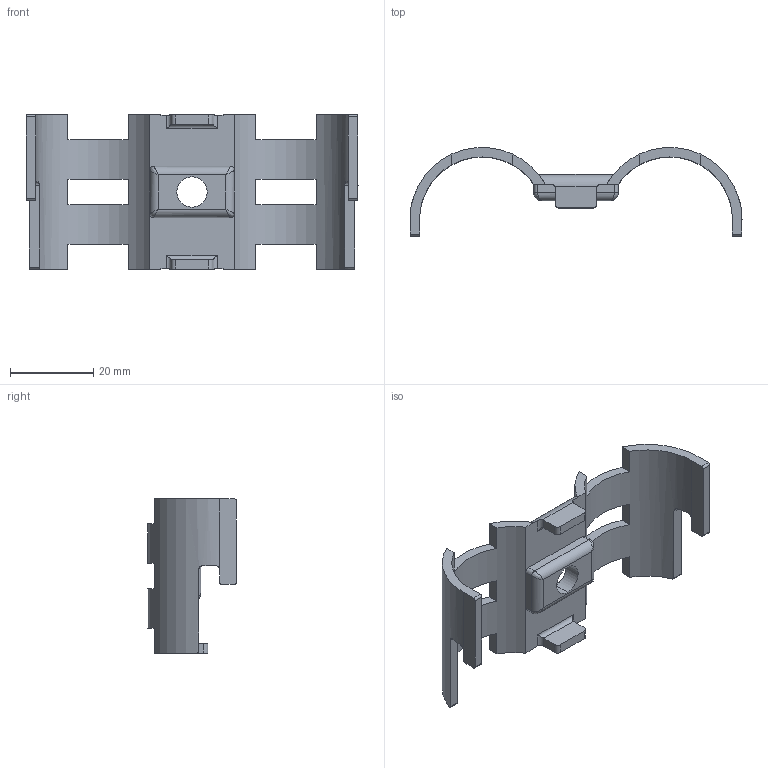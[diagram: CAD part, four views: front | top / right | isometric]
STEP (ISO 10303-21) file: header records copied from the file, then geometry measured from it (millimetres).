
FILE_DESCRIPTION (( 'STEP AP203' ), '1' );
FILE_NAME ('015.100.018.STEP', '2016-10-24T07:38:57', ( '' ), ( '' ), 'SwSTEP 2.0', 'SolidWorks 2016', '' );
FILE_SCHEMA (( 'CONFIG_CONTROL_DESIGN' ));
Length unit declared in the file: millimetre
Products named in the file (1): 015.100.018
Bounding box: 79.6 x 21.24 x 37 mm (x, y, z)
Volume: 7877.3 mm3; surface area: 8040 mm2
Topology: 2 solids, 2 shells, 110 faces, 298 edges, 188 vertices
Faces by surface type: plane 64, cylinder 42, bspline 4
Entity records: 3747 total; most frequent: CARTESIAN_POINT 955, ORIENTED_EDGE 588, DIRECTION 544, EDGE_CURVE 294, VERTEX_POINT 188, LINE 186, VECTOR 186, AXIS2_PLACEMENT_3D 179
